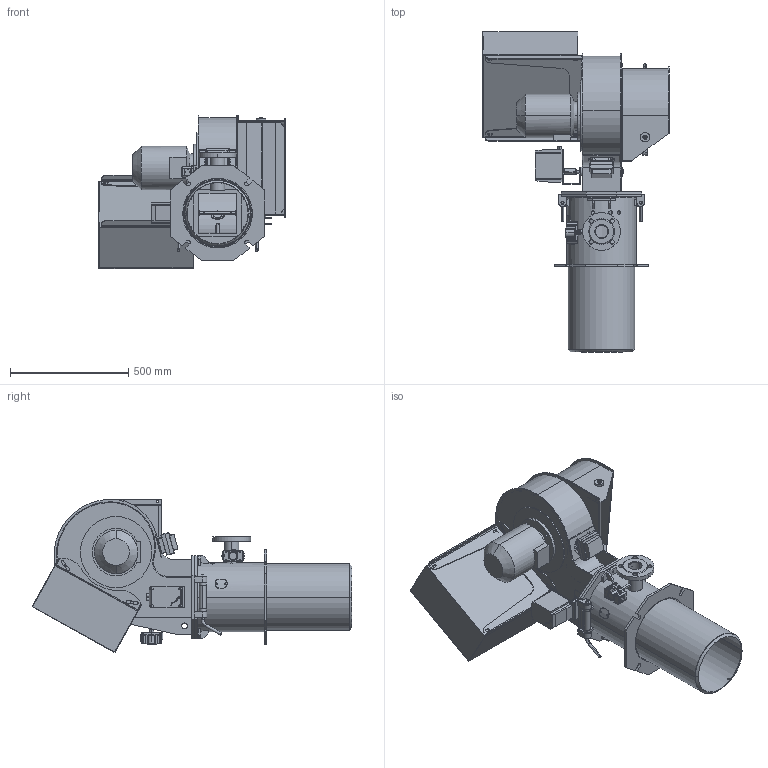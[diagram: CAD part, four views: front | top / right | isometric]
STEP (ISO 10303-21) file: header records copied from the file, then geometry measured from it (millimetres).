
FILE_DESCRIPTION (( 'STEP AP214' ), '1' );
FILE_NAME ('Ò - 2.135 G ãîðåëêà â ñáîðå_1.STEP', '2020-11-25T12:33:52', ( 'Pavel' ), ( '' ), 'SwSTEP 2.0', 'SolidWorks 2016', '' );
FILE_SCHEMA (( 'AUTOMOTIVE_DESIGN' ));
Length unit declared in the file: millimetre
Products named in the file (2): Ò - 2.135 G ãîðåëêà â ñáîðå_1
Bounding box: 786 x 1350.38 x 646.74 mm (x, y, z)
Volume: 18989883.3 mm3; surface area: 6670861 mm2
Topology: 81 solids, 82 shells, 2050 faces, 5313 edges, 3431 vertices
Faces by surface type: plane 869, cylinder 860, bspline 166, cone 147, torus 8
Entity records: 99838 total; most frequent: CARTESIAN_POINT 26308, ORIENTED_EDGE 10580, DIRECTION 9917, EDGE_CURVE 5290, AXIS2_PLACEMENT_3D 3476, VERTEX_POINT 3428, LINE 2965, VECTOR 2965
